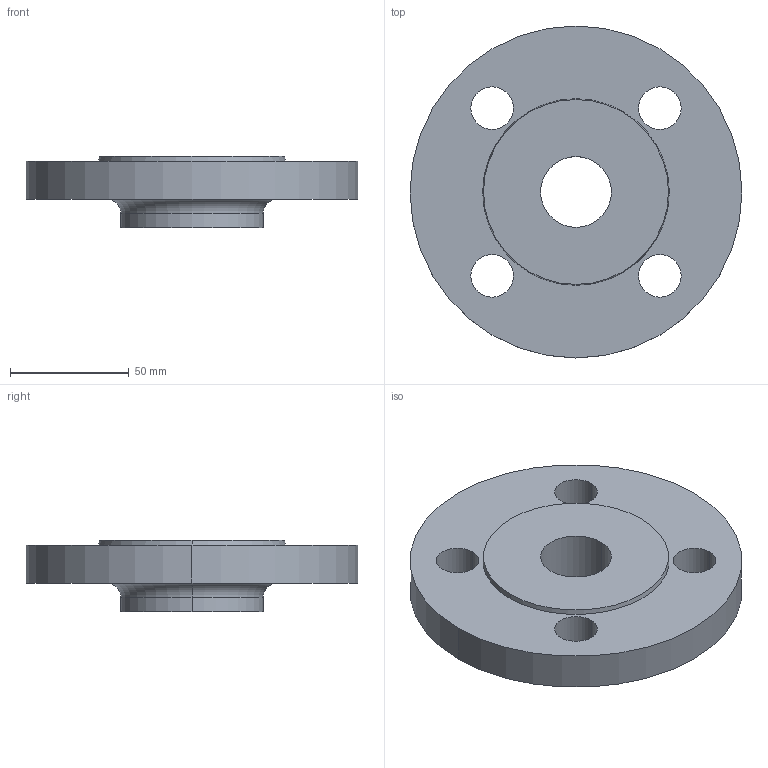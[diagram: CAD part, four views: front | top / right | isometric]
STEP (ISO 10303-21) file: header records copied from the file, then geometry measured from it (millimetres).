
FILE_DESCRIPTION (( 'STEP AP214' ), '1' );
FILE_NAME ('PN40 DN32 Type 13 - Type B Face.STEP', '2018-12-29T23:54:32', ( '' ), ( '' ), 'SwSTEP 2.0', 'SolidWorks 2019', '' );
FILE_SCHEMA (( 'AUTOMOTIVE_DESIGN' ));
Length unit declared in the file: millimetre
Products named in the file (1): PN40 DN32 Type 13 - Type B Face
Bounding box: 140 x 140 x 30 mm (x, y, z)
Volume: 254135.6 mm3; surface area: 43027.4 mm2
Topology: 1 solids, 1 shells, 22 faces, 52 edges, 34 vertices
Faces by surface type: cylinder 14, plane 4, torus 2, cone 2
Entity records: 710 total; most frequent: DIRECTION 134, CARTESIAN_POINT 109, ORIENTED_EDGE 104, AXIS2_PLACEMENT_3D 59, EDGE_CURVE 52, CIRCLE 36, EDGE_LOOP 34, VERTEX_POINT 34
